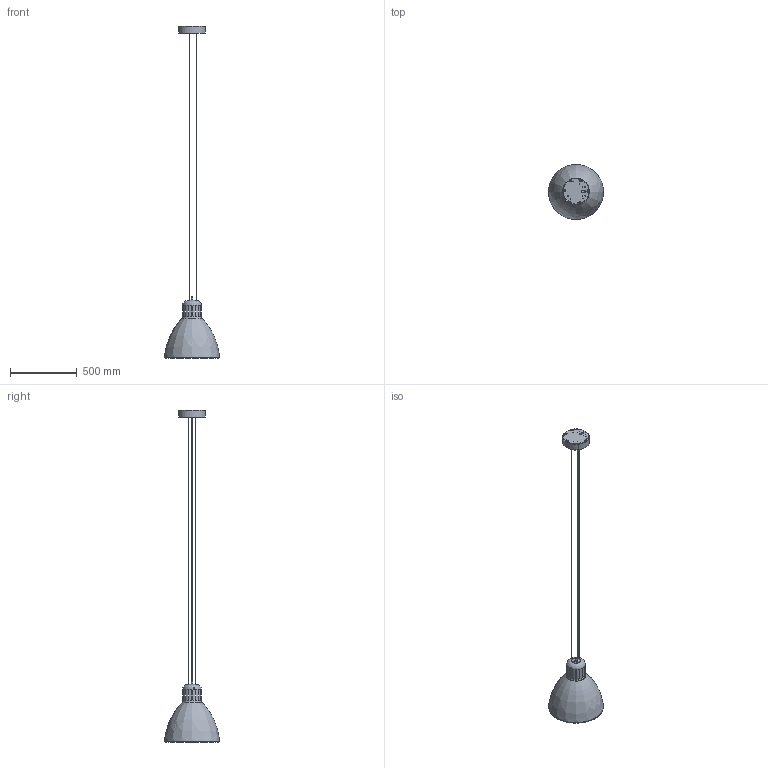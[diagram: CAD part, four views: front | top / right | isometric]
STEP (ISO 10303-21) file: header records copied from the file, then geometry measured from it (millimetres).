
FILE_DESCRIPTION(/* description */ (''),/* implementation_level */ '2;1');
FILE_NAME(/* name */ 'C:\Users\matteo.garelli\Desktop\BIG JJ S LED - 3D.stp',/* time_stamp */ '2021-05-11T15:15:28+02:00',/* author */ ('matteo.garelli'),/* organization */ (''),/* preprocessor_version */ 'ST-DEVELOPER v18.1',/* originating_system */ 'Autodesk Inventor 2020',/* authorisation */ '');
FILE_SCHEMA (('AUTOMOTIVE_DESIGN { 1 0 10303 214 3 1 1 }'));
Length unit declared in the file: millimetre
Products named in the file (1): BIG JJ S LED - 3D
Bounding box: 410 x 410 x 2481.25 mm (x, y, z)
Volume: 739651.6 mm3; surface area: 1023250.9 mm2
Topology: 5 solids, 5 shells, 354 faces, 928 edges, 609 vertices
Faces by surface type: plane 159, cylinder 137, cone 28, torus 22, sphere 4, bspline 4
Full cylindrical faces by diameter (mm): 1 x3, 2 x3, 2.013 x5, 2.459 x2, 2.5 x10, 3 x4, 3.242 x3, 4 x6, 4.5 x1, 8.917 x1, 10 x3, 10.5 x1, 12 x2, 13 x1, 137 x1, 140 x1, 146.42 x1, 198 x1, 200 x1
Entity records: 13674 total; most frequent: CARTESIAN_POINT 4470, DIRECTION 1861, ORIENTED_EDGE 1840, EDGE_CURVE 920, AXIS2_PLACEMENT_3D 710, VERTEX_POINT 609, EDGE_LOOP 453, LINE 441
